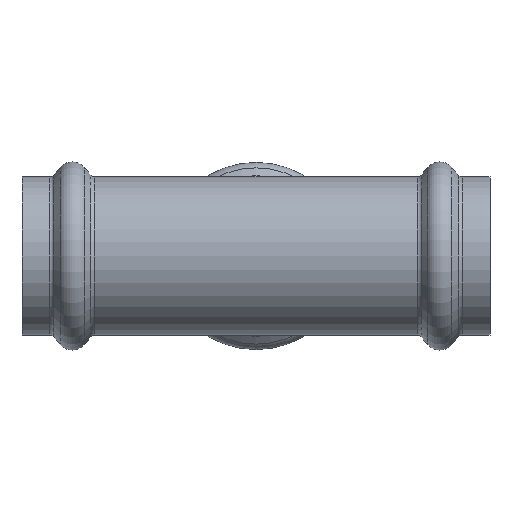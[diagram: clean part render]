
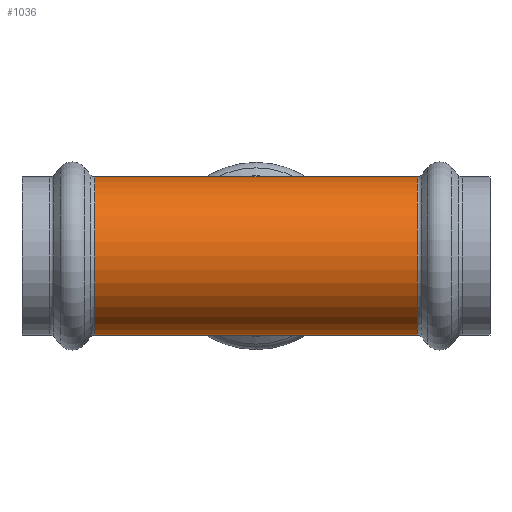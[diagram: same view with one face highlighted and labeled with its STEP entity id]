
A CAD part, front view. The second image highlights one B-rep face of the part: STEP entity #1036.
In plain terms, the highlighted cylindrical face has radius 15.7 mm (diameter 31.4 mm), a partial arc.
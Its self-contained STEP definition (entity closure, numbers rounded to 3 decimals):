
#69 = DIRECTION ( 'NONE',  ( -1., 0., 0. ) ) ;
#222 = ORIENTED_EDGE ( 'NONE', *, *, #4146, .T. ) ;
#531 = AXIS2_PLACEMENT_3D ( 'NONE', #2824, #701, #3160 ) ;
#591 = CARTESIAN_POINT ( 'NONE',  ( -32.059, 0., -15.7 ) ) ;
#701 = DIRECTION ( 'NONE',  ( 1., 0., 0. ) ) ;
#857 = CIRCLE ( 'NONE', #1437, 15.7 ) ;
#1036 = ADVANCED_FACE ( 'NONE', ( #3184 ), #3392, .T. ) ;
#1089 = VECTOR ( 'NONE', #4430, 1000. ) ;
#1184 = ORIENTED_EDGE ( 'NONE', *, *, #2670, .T. ) ;
#1291 = EDGE_LOOP ( 'NONE', ( #2139, #1184, #222, #2943 ) ) ;
#1379 = CARTESIAN_POINT ( 'NONE',  ( -58.611, 0., -15.7 ) ) ;
#1437 = AXIS2_PLACEMENT_3D ( 'NONE', #3808, #1763, #4127 ) ;
#1475 = CIRCLE ( 'NONE', #531, 15.7 ) ;
#1761 = VERTEX_POINT ( 'NONE', #3402 ) ;
#1763 = DIRECTION ( 'NONE',  ( -1., 0., 0. ) ) ;
#2004 = CARTESIAN_POINT ( 'NONE',  ( -58.611, 0., 15.7 ) ) ;
#2139 = ORIENTED_EDGE ( 'NONE', *, *, #3344, .F. ) ;
#2189 = VERTEX_POINT ( 'NONE', #3892 ) ;
#2244 = CARTESIAN_POINT ( 'NONE',  ( -58.611, 0., 0. ) ) ;
#2457 = VERTEX_POINT ( 'NONE', #591 ) ;
#2599 = AXIS2_PLACEMENT_3D ( 'NONE', #2244, #69, #4244 ) ;
#2666 = CARTESIAN_POINT ( 'NONE',  ( 32.059, 0., 15.7 ) ) ;
#2670 = EDGE_CURVE ( 'NONE', #1761, #2987, #857, .T. ) ;
#2729 = EDGE_CURVE ( 'NONE', #2189, #2457, #1475, .T. ) ;
#2739 = LINE ( 'NONE', #2004, #4398 ) ;
#2824 = CARTESIAN_POINT ( 'NONE',  ( -32.059, 0., 0. ) ) ;
#2943 = ORIENTED_EDGE ( 'NONE', *, *, #2729, .T. ) ;
#2945 = LINE ( 'NONE', #1379, #1089 ) ;
#2987 = VERTEX_POINT ( 'NONE', #2666 ) ;
#3160 = DIRECTION ( 'NONE',  ( 0., 0., -1. ) ) ;
#3184 = FACE_OUTER_BOUND ( 'NONE', #1291, .T. ) ;
#3344 = EDGE_CURVE ( 'NONE', #1761, #2457, #2945, .T. ) ;
#3392 = CYLINDRICAL_SURFACE ( 'NONE', #2599, 15.7 ) ;
#3402 = CARTESIAN_POINT ( 'NONE',  ( 32.059, 0., -15.7 ) ) ;
#3808 = CARTESIAN_POINT ( 'NONE',  ( 32.059, 0., 0. ) ) ;
#3892 = CARTESIAN_POINT ( 'NONE',  ( -32.059, 0., 15.7 ) ) ;
#4023 = DIRECTION ( 'NONE',  ( -1., 0., 0. ) ) ;
#4127 = DIRECTION ( 'NONE',  ( 0., 0., 1. ) ) ;
#4146 = EDGE_CURVE ( 'NONE', #2987, #2189, #2739, .T. ) ;
#4244 = DIRECTION ( 'NONE',  ( 0., 0., 1. ) ) ;
#4398 = VECTOR ( 'NONE', #4023, 1000. ) ;
#4430 = DIRECTION ( 'NONE',  ( -1., 0., 0. ) ) ;
